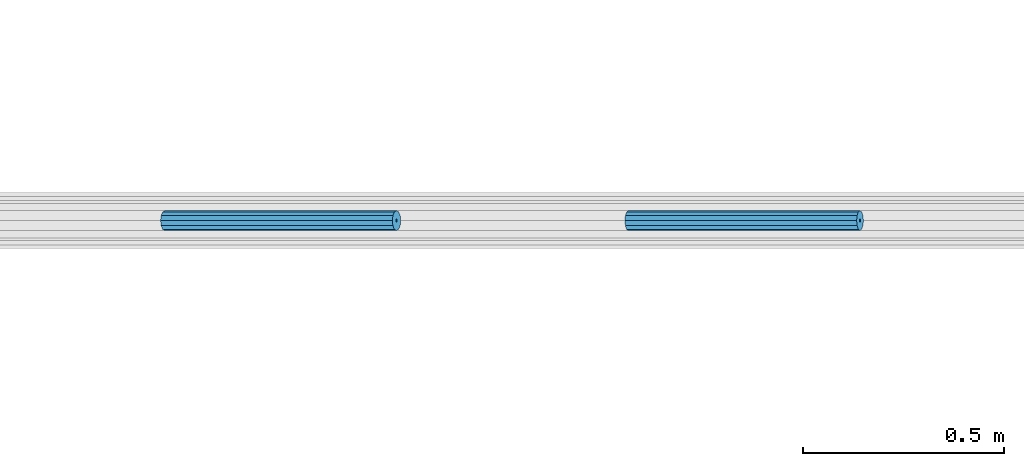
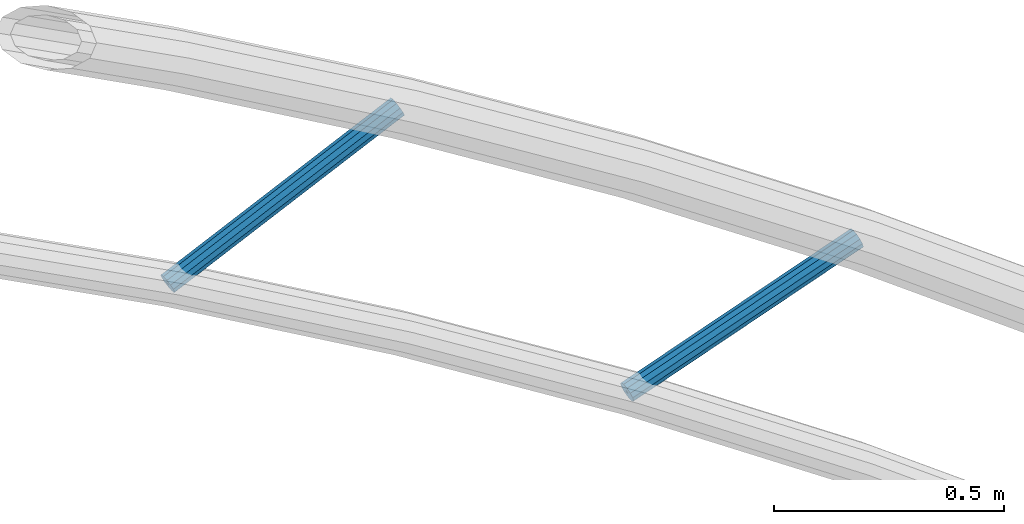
# One storey, part 24 of 90: 2 beams.
"""IFC2X3 building model written with IfcOpenShell, lengths in metres."""

from ifc_helpers import new_model, si_unit, origin, origin_with_axes, place, context, subcontext, project, spatial, faceted_brep, element, save


model = new_model("IFC2X3")

# Units and contexts
model_context = context("Model", 3, precision=1e-05, world=origin_with_axes())
body_context = subcontext(model_context, "Body", "Model", "MODEL_VIEW")
ifc_project = project(units=[si_unit("LENGTHUNIT", "METRE"), si_unit("AREAUNIT", "SQUARE_METRE"), si_unit("VOLUMEUNIT", "CUBIC_METRE"), si_unit("PLANEANGLEUNIT", "RADIAN")], contexts=[model_context])

# Site, building, storey
site_placement = place(None, origin_with_axes())
site = spatial("IfcSite", under=ifc_project, at=site_placement, Name="Predio Los Mangos - Morales, San Martín", CompositionType="ELEMENT")
building_placement = place(site_placement, origin())
building = spatial("IfcBuilding", under=site, at=building_placement, Name="Hogar de Refugio Temporal", CompositionType="ELEMENT")
storey_placement = place(building_placement, origin())
storey = spatial("IfcBuildingStorey", under=building, at=storey_placement, Name="NIVEL 1 (NPT +0.00)", CompositionType="ELEMENT", Elevation=0.0)

# Beams
beam_1_placement = place(storey_placement, origin())
element("IfcBeam", 1, at=beam_1_placement, inside=storey, Name="diag", ObjectType="Viga", context=body_context, shape_type="Brep", body=[
    faceted_brep([(23.7072, 127.0217, 7.3372), (24.2847, 127.0217, 7.6056), (24.29, 127.025, 7.5943), (23.7125, 127.025, 7.3259), (23.7034, 127.0125, 7.3455), (24.2809, 127.0125, 7.6139), (23.702, 127.0, 7.3485), (24.2795, 127.0, 7.617), (23.7034, 126.9875, 7.3455), (24.2809, 126.9875, 7.6139), (23.7072, 126.9783, 7.3372), (24.2847, 126.9783, 7.6056), (23.7125, 126.975, 7.3259), (24.29, 126.975, 7.5943), (23.7178, 126.9783, 7.3145), (24.2953, 126.9783, 7.583), (23.7216, 126.9875, 7.3062), (24.2991, 126.9875, 7.5747), (23.723, 127.0, 7.3032), (24.3005, 127.0, 7.5716), (23.7216, 127.0125, 7.3062), (24.2991, 127.0125, 7.5747), (23.7178, 127.0217, 7.3145), (24.2953, 127.0217, 7.583), (23.7116, 127.0037, 7.3278), (23.7125, 127.0043, 7.3259), (24.29, 127.0043, 7.5943), (24.2891, 127.0037, 7.5963), (23.7109, 127.0021, 7.3292), (24.2884, 127.0021, 7.5977), (23.7107, 127.0, 7.3298), (24.2882, 127.0, 7.5982), (23.7109, 126.9979, 7.3292), (24.2884, 126.9979, 7.5977), (23.7116, 126.9963, 7.3278), (24.2891, 126.9963, 7.5963), (23.7125, 126.9957, 7.3259), (24.29, 126.9957, 7.5943), (23.7134, 126.9963, 7.3239), (24.2909, 126.9963, 7.5924), (23.7141, 126.9979, 7.3225), (24.2916, 126.9979, 7.5909), (23.7143, 127.0, 7.322), (24.2918, 127.0, 7.5904), (23.7141, 127.0021, 7.3225), (24.2916, 127.0021, 7.5909), (23.7134, 127.0037, 7.3239), (24.2909, 127.0037, 7.5924)], [[[0, 1, 2, 3]], [[4, 5, 1, 0]], [[6, 7, 5, 4]], [[8, 9, 7, 6]], [[10, 11, 9, 8]], [[12, 13, 11, 10]], [[14, 15, 13, 12]], [[16, 17, 15, 14]], [[18, 19, 17, 16]], [[20, 21, 19, 18]], [[22, 23, 21, 20]], [[3, 2, 23, 22]], [[24, 25, 26, 27]], [[28, 24, 27, 29]], [[30, 28, 29, 31]], [[32, 30, 31, 33]], [[34, 32, 33, 35]], [[36, 34, 35, 37]], [[38, 36, 37, 39]], [[40, 38, 39, 41]], [[42, 40, 41, 43]], [[44, 42, 43, 45]], [[46, 44, 45, 47]], [[25, 46, 47, 26]], [[12, 10, 34, 36]], [[22, 20, 44, 46]], [[5, 7, 31, 29]], [[15, 17, 41, 39]], [[2, 1, 27, 26]], [[8, 6, 30, 32]], [[18, 16, 40, 42]], [[11, 13, 37, 35]], [[21, 23, 47, 45]], [[4, 0, 24, 28]], [[14, 12, 36, 38]], [[3, 22, 46, 25]], [[7, 9, 33, 31]], [[17, 19, 43, 41]], [[23, 2, 26, 47]], [[10, 8, 32, 34]], [[20, 18, 42, 44]], [[1, 5, 29, 27]], [[13, 15, 39, 37]], [[6, 4, 28, 30]], [[16, 14, 38, 40]], [[0, 3, 25, 24]], [[9, 11, 35, 33]], [[19, 21, 45, 43]]]),
])
beam_2_placement = place(storey_placement, origin())
element("IfcBeam", 2, at=beam_2_placement, inside=storey, Name="diag", ObjectType="Viga", context=body_context, shape_type="Brep", body=[
    faceted_brep([(24.8633, 127.0217, 6.6451), (25.4408, 127.0217, 6.8526), (25.445, 127.025, 6.8408), (24.8675, 127.025, 6.6333), (24.8602, 127.0125, 6.6537), (25.4377, 127.0125, 6.8612), (24.859, 127.0, 6.6569), (25.4365, 127.0, 6.8643), (24.8602, 126.9875, 6.6537), (25.4377, 126.9875, 6.8612), (24.8633, 126.9783, 6.6451), (25.4408, 126.9783, 6.8526), (24.8675, 126.975, 6.6333), (25.445, 126.975, 6.8408), (24.8717, 126.9783, 6.6216), (25.4492, 126.9783, 6.829), (24.8748, 126.9875, 6.613), (25.4523, 126.9875, 6.8204), (24.876, 127.0, 6.6098), (25.4535, 127.0, 6.8173), (24.8748, 127.0125, 6.613), (25.4523, 127.0125, 6.8204), (24.8717, 127.0217, 6.6216), (25.4492, 127.0217, 6.829), (24.8668, 127.0037, 6.6354), (24.8675, 127.0043, 6.6333), (25.445, 127.0043, 6.8408), (25.4443, 127.0037, 6.8428), (24.8662, 127.0021, 6.6368), (25.4437, 127.0021, 6.8443), (24.866, 127.0, 6.6374), (25.4435, 127.0, 6.8449), (24.8662, 126.9979, 6.6368), (25.4437, 126.9979, 6.8443), (24.8668, 126.9963, 6.6354), (25.4443, 126.9963, 6.8428), (24.8675, 126.9957, 6.6333), (25.445, 126.9957, 6.8408), (24.8682, 126.9963, 6.6313), (25.4457, 126.9963, 6.8388), (24.8688, 126.9979, 6.6298), (25.4463, 126.9979, 6.8373), (24.869, 127.0, 6.6293), (25.4465, 127.0, 6.8368), (24.8688, 127.0021, 6.6298), (25.4463, 127.0021, 6.8373), (24.8682, 127.0037, 6.6313), (25.4457, 127.0037, 6.8388)], [[[0, 1, 2, 3]], [[4, 5, 1, 0]], [[6, 7, 5, 4]], [[8, 9, 7, 6]], [[10, 11, 9, 8]], [[12, 13, 11, 10]], [[14, 15, 13, 12]], [[16, 17, 15, 14]], [[18, 19, 17, 16]], [[20, 21, 19, 18]], [[22, 23, 21, 20]], [[3, 2, 23, 22]], [[24, 25, 26, 27]], [[28, 24, 27, 29]], [[30, 28, 29, 31]], [[32, 30, 31, 33]], [[34, 32, 33, 35]], [[36, 34, 35, 37]], [[38, 36, 37, 39]], [[40, 38, 39, 41]], [[42, 40, 41, 43]], [[44, 42, 43, 45]], [[46, 44, 45, 47]], [[25, 46, 47, 26]], [[12, 10, 34, 36]], [[22, 20, 44, 46]], [[5, 7, 31, 29]], [[15, 17, 41, 39]], [[2, 1, 27, 26]], [[8, 6, 30, 32]], [[18, 16, 40, 42]], [[11, 13, 37, 35]], [[21, 23, 47, 45]], [[4, 0, 24, 28]], [[14, 12, 36, 38]], [[3, 22, 46, 25]], [[7, 9, 33, 31]], [[17, 19, 43, 41]], [[23, 2, 26, 47]], [[10, 8, 32, 34]], [[20, 18, 42, 44]], [[1, 5, 29, 27]], [[13, 15, 39, 37]], [[6, 4, 28, 30]], [[16, 14, 38, 40]], [[0, 3, 25, 24]], [[9, 11, 35, 33]], [[19, 21, 45, 43]]]),
])

save(model, "model.ifc")
